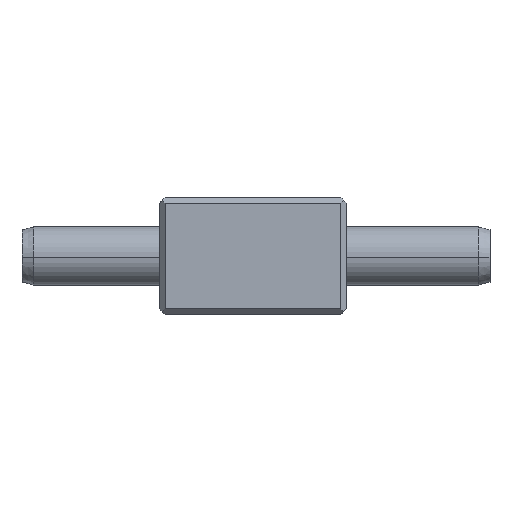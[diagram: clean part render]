
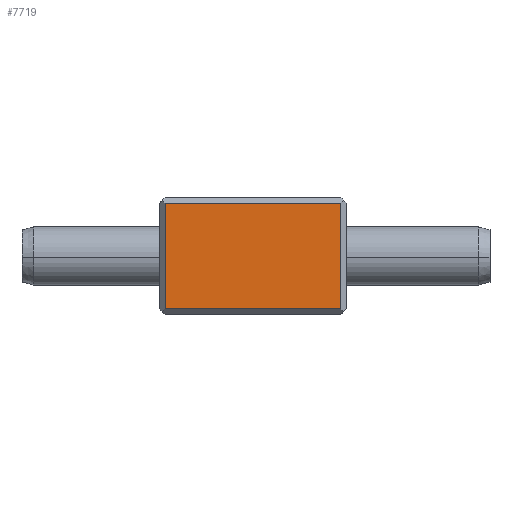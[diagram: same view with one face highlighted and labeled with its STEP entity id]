
A CAD part, front view. The second image highlights one B-rep face of the part: STEP entity #7719.
In plain terms, the highlighted planar face has unit normal (0, -1, 0).
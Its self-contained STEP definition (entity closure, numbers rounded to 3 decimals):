
#333 = CARTESIAN_POINT ( 'NONE',  ( -15., -18.5, 10. ) ) ;
#342 = LINE ( 'NONE', #333, #6768 ) ;
#358 = DIRECTION ( 'NONE',  ( 0., 0., -1. ) ) ;
#422 = DIRECTION ( 'NONE',  ( 0., 0., 1. ) ) ;
#425 = CARTESIAN_POINT ( 'NONE',  ( 15., -18.5, 10. ) ) ;
#433 = LINE ( 'NONE', #425, #6710 ) ;
#542 = LINE ( 'NONE', #609, #6772 ) ;
#585 = DIRECTION ( 'NONE',  ( -1., 0., 0. ) ) ;
#609 = CARTESIAN_POINT ( 'NONE',  ( -16., -18.5, 9. ) ) ;
#1426 = CARTESIAN_POINT ( 'NONE',  ( -15., -18.5, -9. ) ) ;
#1429 = CARTESIAN_POINT ( 'NONE',  ( -15., -18.5, 9. ) ) ;
#1450 = CARTESIAN_POINT ( 'NONE',  ( 15., -18.5, -9. ) ) ;
#1483 = CARTESIAN_POINT ( 'NONE',  ( 15., -18.5, 9. ) ) ;
#1766 = AXIS2_PLACEMENT_3D ( 'NONE', #5955, #5963, #5957 ) ;
#2588 = LINE ( 'NONE', #2630, #5742 ) ;
#2630 = CARTESIAN_POINT ( 'NONE',  ( -16., -18.5, -9. ) ) ;
#2655 = DIRECTION ( 'NONE',  ( 1., 0., 0. ) ) ;
#3628 = ORIENTED_EDGE ( 'NONE', *, *, #6646, .T. ) ;
#3673 = ORIENTED_EDGE ( 'NONE', *, *, #6567, .T. ) ;
#3694 = ORIENTED_EDGE ( 'NONE', *, *, #6580, .T. ) ;
#3732 = ORIENTED_EDGE ( 'NONE', *, *, #6668, .T. ) ;
#4016 = EDGE_LOOP ( 'NONE', ( #3694, #3628, #3673, #3732 ) ) ;
#5742 = VECTOR ( 'NONE', #2655, 1000. ) ;
#5952 = PLANE ( 'NONE',  #1766 ) ;
#5955 = CARTESIAN_POINT ( 'NONE',  ( -16., -18.5, 10. ) ) ;
#5957 = DIRECTION ( 'NONE',  ( -1., 0., 0. ) ) ;
#5960 = FACE_OUTER_BOUND ( 'NONE', #4016, .T. ) ;
#5963 = DIRECTION ( 'NONE',  ( 0., 1., 0. ) ) ;
#6567 = EDGE_CURVE ( 'NONE', #6896, #6907, #2588, .T. ) ;
#6580 = EDGE_CURVE ( 'NONE', #6920, #6903, #542, .T. ) ;
#6646 = EDGE_CURVE ( 'NONE', #6903, #6896, #342, .T. ) ;
#6668 = EDGE_CURVE ( 'NONE', #6907, #6920, #433, .T. ) ;
#6710 = VECTOR ( 'NONE', #422, 1000. ) ;
#6768 = VECTOR ( 'NONE', #358, 1000. ) ;
#6772 = VECTOR ( 'NONE', #585, 1000. ) ;
#6896 = VERTEX_POINT ( 'NONE', #1426 ) ;
#6903 = VERTEX_POINT ( 'NONE', #1429 ) ;
#6907 = VERTEX_POINT ( 'NONE', #1450 ) ;
#6920 = VERTEX_POINT ( 'NONE', #1483 ) ;
#7719 = ADVANCED_FACE ( 'NONE', ( #5960 ), #5952, .F. ) ;
